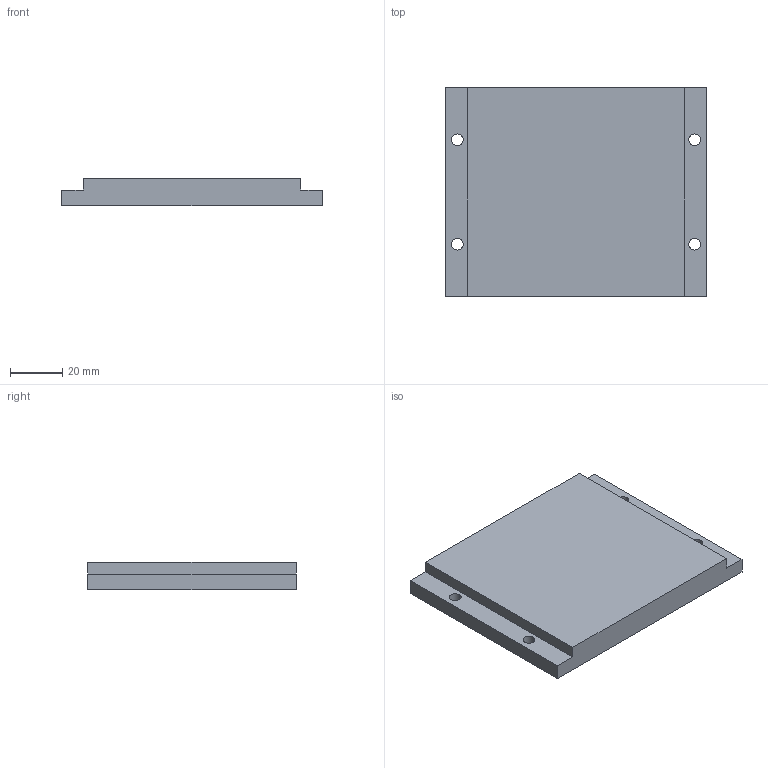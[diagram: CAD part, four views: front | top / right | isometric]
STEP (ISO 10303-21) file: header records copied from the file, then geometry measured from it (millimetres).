
FILE_DESCRIPTION (( 'STEP AP214' ), '1' );
FILE_NAME ('TL-100-80.STEP', '2021-04-27T09:54:48', ( '' ), ( '' ), 'SwSTEP 2.0', 'SolidWorks 2016', '' );
FILE_SCHEMA (( 'AUTOMOTIVE_DESIGN' ));
Length unit declared in the file: millimetre
Products named in the file (1): TL-100-80
Bounding box: 100 x 80 x 10.5 mm (x, y, z)
Volume: 77642.3 mm3; surface area: 19842.7 mm2
Topology: 1 solids, 1 shells, 18 faces, 48 edges, 32 vertices
Faces by surface type: plane 10, cylinder 8
Entity records: 618 total; most frequent: DIRECTION 102, CARTESIAN_POINT 99, ORIENTED_EDGE 96, EDGE_CURVE 48, AXIS2_PLACEMENT_3D 35, LINE 32, VERTEX_POINT 32, VECTOR 32
